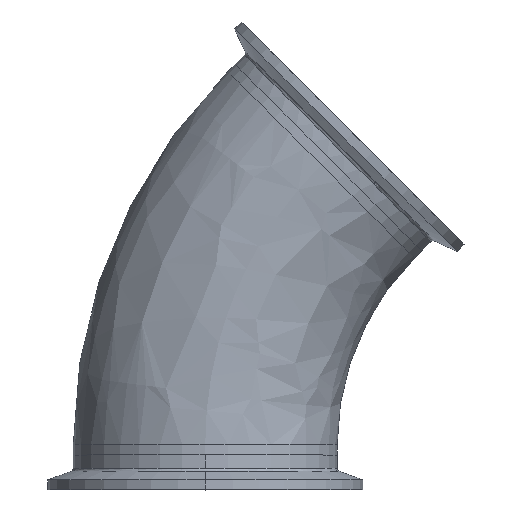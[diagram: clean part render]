
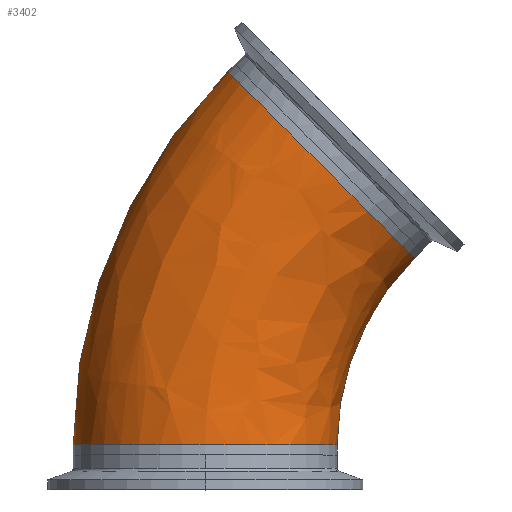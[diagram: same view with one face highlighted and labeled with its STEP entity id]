
A CAD part, top view. The second image highlights one B-rep face of the part: STEP entity #3402.
In plain terms, the highlighted free-form (B-spline) face has degree [3, 3] with [4, 4] control points.
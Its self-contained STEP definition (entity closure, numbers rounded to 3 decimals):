
#19 = CARTESIAN_POINT ( 'NONE',  ( 38.1, 2.955, 0. ) ) ;
#23 = EDGE_CURVE ( 'NONE', #54, #52, #2158, .T. ) ;
#26 = DIRECTION ( 'NONE',  ( -1., 0., 0. ) ) ;
#52 = VERTEX_POINT ( 'NONE', #19 ) ;
#54 = VERTEX_POINT ( 'NONE', #1620 ) ;
#160 = DIRECTION ( 'NONE',  ( -0.707, -0.707, 0. ) ) ;
#243 = CARTESIAN_POINT ( 'NONE',  ( 45.937, 42.356, 76.2 ) ) ;
#414 = CARTESIAN_POINT ( 'NONE',  ( 33.478, 83.778, 0. ) ) ;
#480 = AXIS2_PLACEMENT_3D ( 'NONE', #414, #160, #2618 ) ;
#491 = AXIS2_PLACEMENT_3D ( 'NONE', #2675, #2688, #2801 ) ;
#505 = CARTESIAN_POINT ( 'NONE',  ( 38.1, 2.955, 0. ) ) ;
#577 = AXIS2_PLACEMENT_3D ( 'NONE', #2149, #3389, #26 ) ;
#627 = CARTESIAN_POINT ( 'NONE',  ( 114.3, 2.955, 0. ) ) ;
#761 = CARTESIAN_POINT ( 'NONE',  ( -38.1, 2.955, 0. ) ) ;
#777 = CARTESIAN_POINT ( 'NONE',  ( 45.937, 42.356, 0. ) ) ;
#863 = EDGE_CURVE ( 'NONE', #52, #986, #3291, .T. ) ;
#894 = DIRECTION ( 'NONE',  ( -1., 0., 0. ) ) ;
#986 = VERTEX_POINT ( 'NONE', #1419 ) ;
#1038 = CARTESIAN_POINT ( 'NONE',  ( 6.537, 110.718, 0. ) ) ;
#1045 = ORIENTED_EDGE ( 'NONE', *, *, #2557, .F. ) ;
#1149 =( BOUNDED_SURFACE ( )  B_SPLINE_SURFACE ( 3, 3, ( 
 ( #761, #3159, #2663, #1038 ),
 ( #2912, #1332, #3174, #1610 ),
 ( #3430, #1868, #243, #2150 ),
 ( #505, #2414, #777, #2671 ) ),
 .UNSPECIFIED., .F., .F., .T. ) 
 B_SPLINE_SURFACE_WITH_KNOTS ( ( 4, 4 ),
 ( 4, 4 ),
 ( 0., 1. ),
 ( 0., 1. ),
 .UNSPECIFIED. ) 
 GEOMETRIC_REPRESENTATION_ITEM ( )  RATIONAL_B_SPLINE_SURFACE ( (
 ( 1., 0.949, 0.949, 1.),
 ( 0.333, 0.316, 0.316, 0.333),
 ( 0.333, 0.316, 0.316, 0.333),
 ( 1., 0.949, 0.949, 1.) ) ) 
 REPRESENTATION_ITEM ( '' )  SURFACE ( )  );
#1240 = ORIENTED_EDGE ( 'NONE', *, *, #1452, .T. ) ;
#1323 = ORIENTED_EDGE ( 'NONE', *, *, #23, .T. ) ;
#1332 = CARTESIAN_POINT ( 'NONE',  ( -38.1, 43.915, 76.2 ) ) ;
#1343 = CIRCLE ( 'NONE', #480, 38.1 ) ;
#1419 = CARTESIAN_POINT ( 'NONE',  ( 60.418, 56.837, 0. ) ) ;
#1452 = EDGE_CURVE ( 'NONE', #986, #3229, #1343, .T. ) ;
#1610 = CARTESIAN_POINT ( 'NONE',  ( 6.537, 110.718, 76.2 ) ) ;
#1620 = CARTESIAN_POINT ( 'NONE',  ( -38.1, 2.955, 0. ) ) ;
#1868 = CARTESIAN_POINT ( 'NONE',  ( 38.1, 23.435, 76.2 ) ) ;
#1937 = ORIENTED_EDGE ( 'NONE', *, *, #863, .T. ) ;
#2149 = CARTESIAN_POINT ( 'NONE',  ( 0., 2.955, 0. ) ) ;
#2150 = CARTESIAN_POINT ( 'NONE',  ( 60.418, 56.837, 76.2 ) ) ;
#2158 = CIRCLE ( 'NONE', #577, 38.1 ) ;
#2413 = CARTESIAN_POINT ( 'NONE',  ( 6.537, 110.718, 0. ) ) ;
#2414 = CARTESIAN_POINT ( 'NONE',  ( 38.1, 23.435, 0. ) ) ;
#2525 = DIRECTION ( 'NONE',  ( 0., 0., -1. ) ) ;
#2534 = CIRCLE ( 'NONE', #2916, 152.4 ) ;
#2557 = EDGE_CURVE ( 'NONE', #54, #3229, #2534, .T. ) ;
#2618 = DIRECTION ( 'NONE',  ( -0.707, 0.707, 0. ) ) ;
#2663 = CARTESIAN_POINT ( 'NONE',  ( -22.426, 81.756, 0. ) ) ;
#2671 = CARTESIAN_POINT ( 'NONE',  ( 60.418, 56.837, 0. ) ) ;
#2675 = CARTESIAN_POINT ( 'NONE',  ( 114.3, 2.955, 0. ) ) ;
#2688 = DIRECTION ( 'NONE',  ( 0., 0., -1. ) ) ;
#2801 = DIRECTION ( 'NONE',  ( -1., 0., 0. ) ) ;
#2808 = EDGE_LOOP ( 'NONE', ( #1323, #1937, #1240, #1045 ) ) ;
#2912 = CARTESIAN_POINT ( 'NONE',  ( -38.1, 2.955, 76.2 ) ) ;
#2916 = AXIS2_PLACEMENT_3D ( 'NONE', #627, #2525, #894 ) ;
#3159 = CARTESIAN_POINT ( 'NONE',  ( -38.1, 43.915, 0. ) ) ;
#3174 = CARTESIAN_POINT ( 'NONE',  ( -22.426, 81.756, 76.2 ) ) ;
#3219 = FACE_OUTER_BOUND ( 'NONE', #2808, .T. ) ;
#3229 = VERTEX_POINT ( 'NONE', #2413 ) ;
#3291 = CIRCLE ( 'NONE', #491, 76.2 ) ;
#3389 = DIRECTION ( 'NONE',  ( 0., 1., 0. ) ) ;
#3402 = ADVANCED_FACE ( 'NONE', ( #3219 ), #1149, .T. ) ;
#3430 = CARTESIAN_POINT ( 'NONE',  ( 38.1, 2.955, 76.2 ) ) ;
